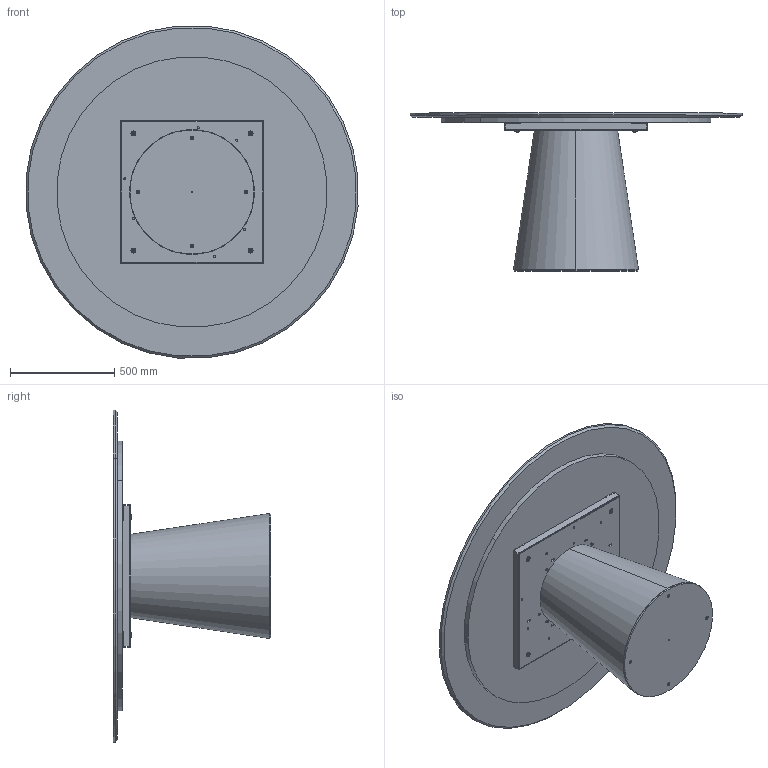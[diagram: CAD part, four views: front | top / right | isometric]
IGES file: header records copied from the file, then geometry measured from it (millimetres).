
Start section: SolidWorks IGES file using analytic representation for surfaces
Global section: file name: Y:\eforma\TECNICO\SOLIDWORKS\E-FORMA\1-TAVOLI\TEO\08 modelli 3D web\TO08M_Teo_d.160_Marble.IGS; native system: SolidWorks 2022; preprocessor: SolidWorks 2022; author: eforma.tech; date: 240802.112426; units: millimetre
Bounding box: 1593.91 x 758.19 x 1593.91 mm (x, y, z)
Volume: 103389788.9 mm3; surface area: 11276958.7 mm2
Topology: 21 solids, 21 shells, 818 faces, 2040 edges, 1253 vertices
Faces by surface type: revolution 446, plane 372
